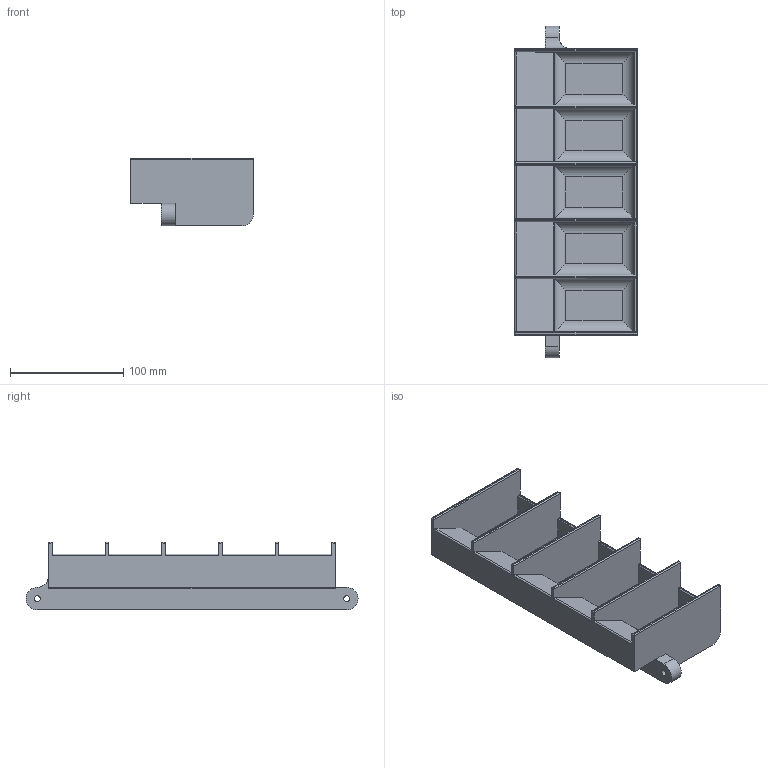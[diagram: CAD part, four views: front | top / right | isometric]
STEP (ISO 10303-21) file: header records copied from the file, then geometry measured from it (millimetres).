
FILE_DESCRIPTION(/* description */ ('STEP AP242','CAx-IF Rec.Pracs.---Representation and Presentation of Product Manufacturing Information (PMI)---4.0---2014-10-13','CAx-IF Rec.Pracs.---3D Tessellated Geometry---0.4---2014-09-14','2;1','CAx-IF Rec.Pracs.---User Defined Attributes---1.5---2016-08-15'),/* implementation_level */ '2;1');
FILE_NAME(/* name */ 'Full Assembly - Part 1 (15)',/* time_stamp */ '2025-11-03T04:00:12Z',/* author */ (''),/* organization */ (''),/* preprocessor_version */ 'ST-DEVELOPER v20',/* originating_system */ 'ONSHAPE BY PTC INC, 1.206',/* authorisation */ ' ');
FILE_SCHEMA (('AP242_MANAGED_MODEL_BASED_3D_ENGINEERING_MIM_LF { 1 0 10303 442 1 1 4 }'));
Length unit declared in the file: metre
Products named in the file (1): Part 1
Bounding box: 108 x 293 x 60 mm (x, y, z)
Volume: 420066.6 mm3; surface area: 145206.8 mm2
Topology: 1 solids, 1 shells, 124 faces, 320 edges, 198 vertices
Faces by surface type: cylinder 73, plane 51
Full cylindrical faces by diameter (mm): 5.2 x2
Entity records: 3764 total; most frequent: DIRECTION 667, CARTESIAN_POINT 651, ORIENTED_EDGE 636, EDGE_CURVE 318, AXIS2_PLACEMENT_3D 225, LINE 217, VECTOR 217, VERTEX_POINT 198
